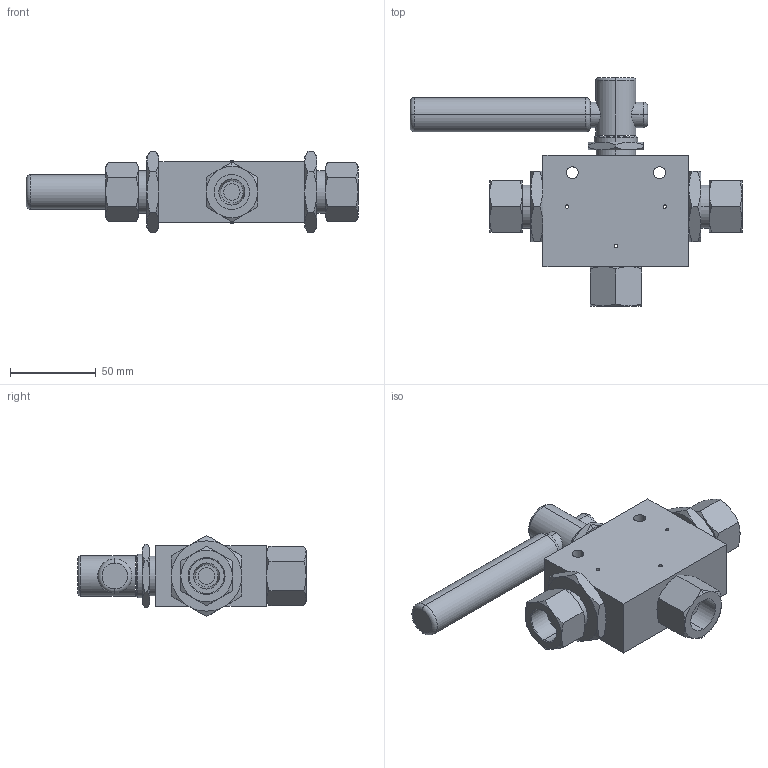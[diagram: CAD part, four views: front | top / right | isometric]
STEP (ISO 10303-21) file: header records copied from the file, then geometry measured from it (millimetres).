
FILE_DESCRIPTION (( 'STEP AP203' ), '1' );
FILE_NAME ('BV1505S08-3-180.STEP', '2022-04-12T10:32:55', ( '' ), ( '' ), 'SwSTEP 2.0', 'SolidWorks 2020', '' );
FILE_SCHEMA (( 'CONFIG_CONTROL_DESIGN' ));
Length unit declared in the file: millimetre
Products named in the file (1): BV1505S08-3-180
Bounding box: 193.5 x 133 x 47.34 mm (x, y, z)
Volume: 301043.2 mm3; surface area: 50493.1 mm2
Topology: 1 solids, 1 shells, 217 faces, 476 edges, 282 vertices
Faces by surface type: cone 88, plane 71, cylinder 50, torus 8
Entity records: 6841 total; most frequent: CARTESIAN_POINT 2132, DIRECTION 962, ORIENTED_EDGE 952, EDGE_CURVE 476, AXIS2_PLACEMENT_3D 420, VERTEX_POINT 282, EDGE_LOOP 252, ADVANCED_FACE 217
